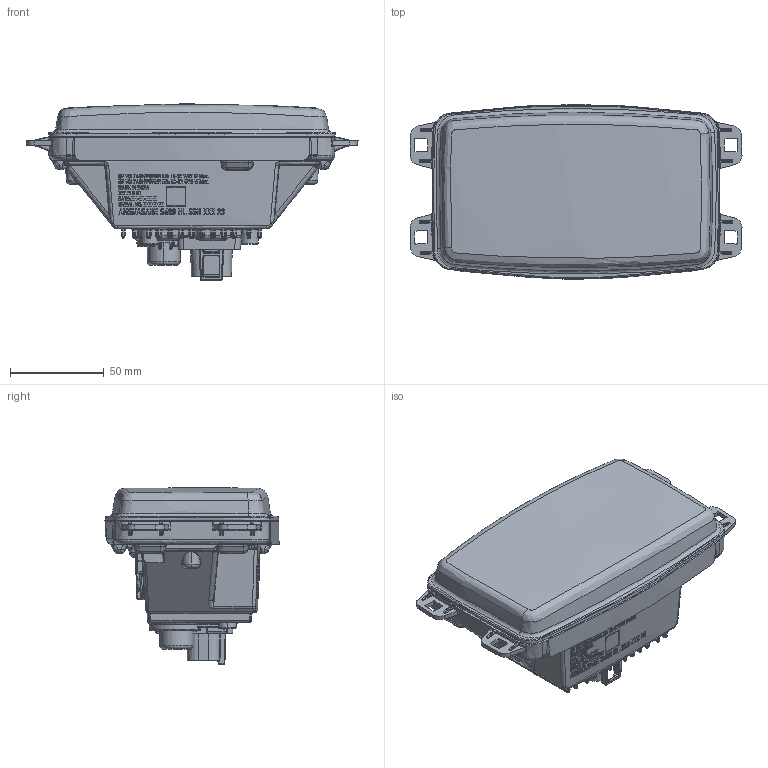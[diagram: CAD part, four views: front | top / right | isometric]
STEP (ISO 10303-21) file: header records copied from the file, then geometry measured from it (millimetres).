
FILE_DESCRIPTION(('CATIA V5 STEP Exchange','CAx-IF Rec.Pracs.--- Model Styling and Organization---1.5--- 2016-08-15','CAx-IF Rec.Pracs.---Supplemental Geometry---1.0---2011-11-01','CAx-IF Rec.Pracs.---Representation and Presentation of Product Manufacturing Information (PMI)---4.0---2014-10-13','CAx-IF Rec.Pracs.--- Composite Materials ---3.4---2017-06-13','CAx-IF Rec.Pracs.---Tessellated 3D Geometry---1.0---2015-12-17'),'2;1');
FILE_NAME('C:\Users\kumaan57\FORVIA\Welcome to the SOE Marketing Team Site - 03_3D data + mounting instruction\Postcard-327.210-00\postcard_V01.stp','2026-05-25T04:57:57+00:00',('none'),('none'),'CATIA Version 5-6 Release 2024 SP3 HF29','CATIA V5 STEP AP242 v3','none');
FILE_SCHEMA(('AP242_MANAGED_MODEL_BASED_3D_ENGINEERING_MIM_LF {1 0 10303 442 3 1 4}'));
Products named in the file (1): postcard_V01
Bounding box: 176.72 x 92.69 x 93.87 mm (x, y, z)
Volume: 620609.4 mm3; surface area: 89692.2 mm2
Topology: 3 solids, 3 shells, 6756 faces, 17662 edges, 11028 vertices
Faces by surface type: plane 2718, extrusion 1518, bspline 1395, cylinder 768, sphere 174, torus 101, cone 82
Entity records: 319159 total; most frequent: CARTESIAN_POINT 182626, ORIENTED_EDGE 34820, EDGE_CURVE 17410, DIRECTION 15182, VERTEX_POINT 11028, B_SPLINE_CURVE_WITH_KNOTS 10792, VECTOR 8519, EDGE_LOOP 7134
